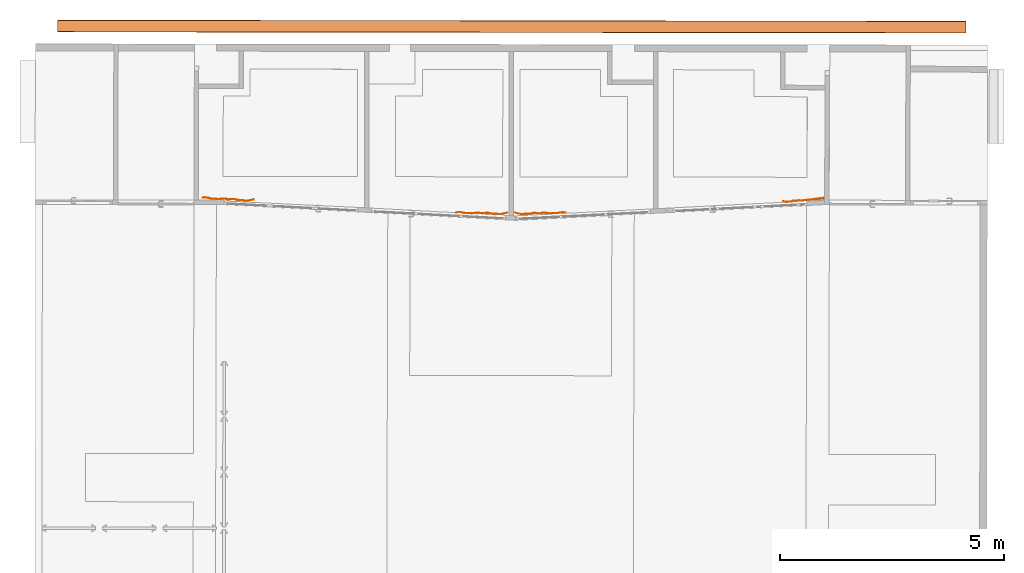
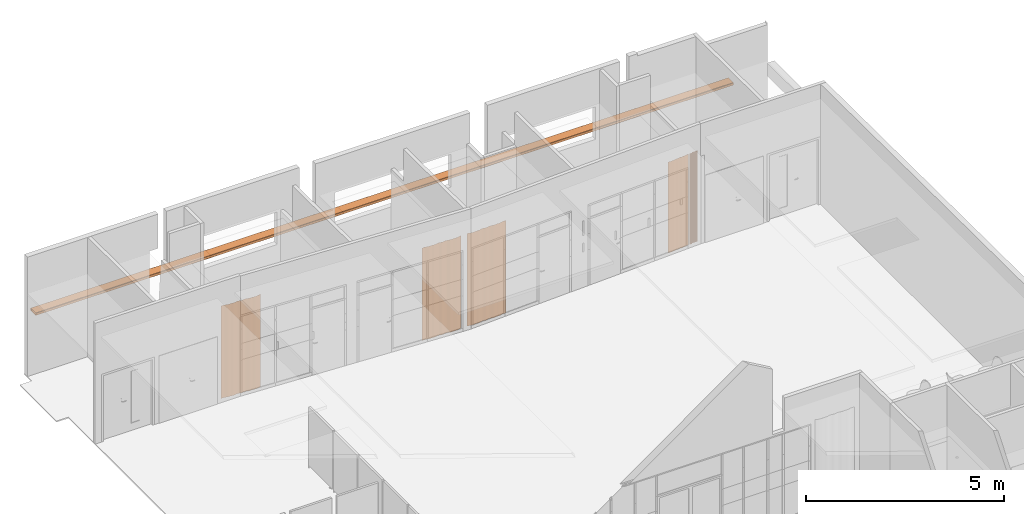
# One storey, part 43 of 43: 5 proxies.
"""IFC2X3 building model written with IfcOpenShell, lengths in metres."""

from ifc_helpers import new_model, entity, si_unit, converted_unit, derived_unit, direction, frame, frame_2d, origin, place, context, subcontext, project, spatial, polyline, circle_curve, parameter, trimmed, segment, composite_curve, outline, extrude, source, transform, mapped, material, type_object, type_shapes, element, save


model = new_model("IFC2X3")

# Units and contexts
model_context = context("Model", 3, precision=1e-05, world=origin(), true_north=direction((6.123233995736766e-17, 1.0)))
body_context = subcontext(model_context, "Body", "Model", "MODEL_VIEW")
ifc_project = project(units=[si_unit("LENGTHUNIT", "METRE"), si_unit("AREAUNIT", "SQUARE_METRE"), converted_unit("PLANEANGLEUNIT", "DEGREE", entity("IfcPlaneAngleMeasure", 0.017453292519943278), si_unit("PLANEANGLEUNIT", "RADIAN"), dimensions=[0, 0, 0, 0, 0, 0, 0]), derived_unit("THERMALTRANSMITTANCEUNIT", [(si_unit("MASSUNIT", "GRAM", prefix="KILO"), 1), (si_unit("THERMODYNAMICTEMPERATUREUNIT", "KELVIN"), -1), (si_unit("TIMEUNIT", "SECOND"), -3)])], contexts=[model_context])

# Site, building, storey
site_placement = place(None, frame((1253.6752467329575, 2072.143113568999, 91.49999999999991), z_axis=(0.0, 0.0, 1.0), x_axis=(0.7237211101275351, 0.6900925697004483, 0.0)))
site = spatial("IfcSite", under=ifc_project, at=site_placement, Name="Surface", CompositionType="ELEMENT")
building_placement = place(site_placement, origin())
building = spatial("IfcBuilding", under=site, at=building_placement, CompositionType="ELEMENT")
storey_placement = place(building_placement, frame((0.0, 0.0, -4.629999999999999)))
storey = spatial("IfcBuildingStorey", under=building, at=storey_placement, Name="rez de rue -1.10m", CompositionType="ELEMENT", Elevation=-4.629999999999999)

# Proxies
ifc_material_1 = material(Name="OMD-rideaux")
building_element_proxy_type_1 = type_object("IfcBuildingElementProxyType", Name="A6305 - Drapes:A6305 - Drapes, Pair 36\"x 3\"", PredefinedType="NOTDEFINED", material=ifc_material_1)
shared_shape_1 = source(origin(), body_context, "Body", "SweptSolid", [
    extrude(outline(polyline([(-0.540311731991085, -0.1077539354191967), (-0.4951550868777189, -0.10775393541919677), (-0.45775509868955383, -0.10197111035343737), (-0.4267200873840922, -0.09249701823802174), (-0.40065837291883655, -0.08142321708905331), (-0.37817827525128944, -0.07084126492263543), (-0.357923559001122, -0.06275253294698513), (-0.33914756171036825, -0.05760737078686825), (-0.3216170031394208, -0.05454985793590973), (-0.30511463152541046, -0.052683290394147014), (-0.2894231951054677, -0.051110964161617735), (-0.2743254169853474, -0.048936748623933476), (-0.25958908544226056, -0.045605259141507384), (-0.24494186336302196, -0.04147659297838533), (-0.2301047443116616, -0.037063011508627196), (-0.21479872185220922, -0.03287677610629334), (-0.19874478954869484, -0.029430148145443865), (-0.18166507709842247, -0.027233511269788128), (-0.16347717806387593, -0.026474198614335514), (-0.14451436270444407, -0.02665253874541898), (-0.1251631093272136, -0.027180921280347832), (-0.10580989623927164, -0.02747173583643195), (-0.08684120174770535, -0.02693737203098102), (-0.06864350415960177, -0.02499021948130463), (-0.05152103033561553, -0.0211999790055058), (-0.03536042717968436, -0.01593500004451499), (-0.019916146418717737, -0.009816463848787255), (-0.004942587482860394, -0.003465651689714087), (0.009805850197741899, 0.0024961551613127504), (0.024574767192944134, 0.007447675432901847), (0.03960912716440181, 0.01077071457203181), (0.055070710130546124, 0.012250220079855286), (0.07095634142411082, 0.01247057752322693), (0.08724341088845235, 0.012110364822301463), (0.10390930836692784, 0.011848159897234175), (0.12093142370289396, 0.01236254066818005), (0.13828714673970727, 0.01433208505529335), (0.15594663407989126, 0.018392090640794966), (0.17375475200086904, 0.024428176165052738), (0.1914503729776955, 0.03169174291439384), (0.20876902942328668, 0.039414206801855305), (0.22544625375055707, 0.046826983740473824), (0.24121757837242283, 0.05316148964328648), (0.2558661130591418, 0.05772196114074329), (0.2697127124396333, 0.06063569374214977), (0.28341801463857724, 0.06255004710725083), (0.29764800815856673, 0.06412057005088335), (0.3130686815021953, 0.06600281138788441), (0.3303460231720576, 0.06885231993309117), (0.3501495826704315, 0.07331152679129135), (0.3733567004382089, 0.07925742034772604), (0.40116346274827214, 0.0853928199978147), (0.4347929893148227, 0.09032096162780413), (0.4754683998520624, 0.09264508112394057), (0.5244128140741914, 0.090968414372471), (0.5828493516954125, 0.08389419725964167), (0.5826371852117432, 0.08500080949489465), (0.5240718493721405, 0.09207915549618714), (0.47498167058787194, 0.09375140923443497), (0.4341554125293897, 0.09141037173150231), (0.40039038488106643, 0.08645618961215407), (0.3724943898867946, 0.08029783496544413), (0.34928946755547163, 0.07434512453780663), (0.329597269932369, 0.06990234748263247), (0.3124183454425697, 0.06707066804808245), (0.29705471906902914, 0.06519398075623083), (0.2828157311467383, 0.06361819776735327), (0.26902736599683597, 0.061690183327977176), (0.2550363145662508, 0.058742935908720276), (0.24022599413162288, 0.0541300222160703), (0.22436131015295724, 0.047753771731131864), (0.20766392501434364, 0.04032926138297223), (0.19037690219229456, 0.03261690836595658), (0.17276251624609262, 0.025378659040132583), (0.15511381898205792, 0.019407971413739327), (0.137656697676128, 0.015371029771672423), (0.12049046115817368, 0.013425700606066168), (0.10359413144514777, 0.012916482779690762), (0.08698066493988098, 0.013170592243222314), (0.07067445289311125, 0.013531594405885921), (0.05468900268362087, 0.013307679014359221), (0.03903749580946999, 0.011785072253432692), (0.02379220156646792, 0.008441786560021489), (0.008884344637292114, 0.003428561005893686), (-0.005922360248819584, -0.0025588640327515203), (-0.02088294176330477, -0.008904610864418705), (-0.0362464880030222, -0.01500070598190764), (-0.05226221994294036, -0.020214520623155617), (-0.06918078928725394, -0.023957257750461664), (-0.08718869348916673, -0.025904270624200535), (-0.10604467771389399, -0.02642834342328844), (-0.1253404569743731, -0.02614482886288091), (-0.14468982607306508, -0.02562008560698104), (-0.16370616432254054, -0.02544421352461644), (-0.18201695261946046, -0.02621331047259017), (-0.19925781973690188, -0.028433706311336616), (-0.2154304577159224, -0.03190870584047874), (-0.23079899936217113, -0.03611496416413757), (-0.24563715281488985, -0.04053168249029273), (-0.2602196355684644, -0.04464498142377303), (-0.274819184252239, -0.047944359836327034), (-0.2897868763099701, -0.05010714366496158), (-0.3054472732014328, -0.05168031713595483), (-0.32201099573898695, -0.05355618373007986), (-0.339675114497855, -0.05663775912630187), (-0.3586396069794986, -0.06185455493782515), (-0.3790529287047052, -0.06998759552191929), (-0.4015399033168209, -0.0805881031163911), (-0.42746218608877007, -0.09160877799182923), (-0.45826126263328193, -0.10101760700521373), (-0.49537444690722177, -0.10676284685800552), (-0.5402404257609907, -0.10677038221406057), (-0.540311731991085, -0.1077539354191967)])), frame((-0.7277431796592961, -0.38589664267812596, 4.629999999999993), z_axis=(0.0, 0.0, 1.0), x_axis=(-0.9821122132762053, 0.18829657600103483, 0.0)), (0.0, 0.0, 1.0), 2.852139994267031),
])
type_shapes(building_element_proxy_type_1, [shared_shape_1])
proxy_1_placement = place(storey_placement, frame((182.2814672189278, 7.003071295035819, -4.629999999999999), z_axis=(0.0, 0.0, 1.0), x_axis=(0.7372384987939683, -0.6756325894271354, 0.0)))
element("IfcBuildingElementProxy", 1, at=proxy_1_placement, inside=storey, type_object=building_element_proxy_type_1, material=ifc_material_1, Name="A6305 - Drapes:A6305 - Drapes, Pair 36\"x 3\"", ObjectType="A6305 - Drapes:A6305 - Drapes, Pair 36\"x 3\"", context=body_context, shape_type="MappedRepresentation", body=[
    mapped(shared_shape_1, transform((0.0, 0.0, 0.0), scale=1.0)),
])
building_element_proxy_type_2 = type_object("IfcBuildingElementProxyType", Name="A6305 - Drapes, Pair 36 x 3:A6305 - Drapes, Pair 36\"x 3\"", PredefinedType="NOTDEFINED", material=ifc_material_1)
shared_shape_2 = source(origin(), body_context, "Body", "SweptSolid", [
    extrude(outline(polyline([(0.09126500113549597, -0.1021428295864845), (0.09225718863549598, -0.1021428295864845), (0.09044647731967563, -0.08768988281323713), (0.0859654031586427, -0.07849301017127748), (0.08031584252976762, -0.0728381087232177), (0.07512654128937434, -0.06891259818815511), (0.07164471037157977, -0.06501994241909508), (0.06958110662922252, -0.06061131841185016), (0.06833704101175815, -0.05598193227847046), (0.06731671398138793, -0.05149315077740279), (0.06584560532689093, -0.04749114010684), (0.06313420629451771, -0.04441336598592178), (0.05888987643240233, -0.04287611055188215), (0.05365214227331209, -0.0425398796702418), (0.047840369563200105, -0.04285127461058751), (0.04192065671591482, -0.04335518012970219), (0.03640502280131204, -0.043617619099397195), (0.03185489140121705, -0.04323275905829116), (0.028842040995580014, -0.04192677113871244), (0.027103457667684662, -0.03960996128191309), (0.026161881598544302, -0.03631277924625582), (0.02573084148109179, -0.032332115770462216), (0.025434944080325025, -0.02803539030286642), (0.024840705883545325, -0.023754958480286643), (0.023464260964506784, -0.019801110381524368), (0.020828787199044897, -0.016574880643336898), (0.017157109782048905, -0.014277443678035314), (0.012936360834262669, -0.012547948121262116), (0.008587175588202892, -0.01104074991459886), (0.004543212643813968, -0.009457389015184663), (0.0012611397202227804, -0.00755871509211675), (-0.0008734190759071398, -0.00513544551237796), (-0.0018609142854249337, -0.0019379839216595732), (-0.0020070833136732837, 0.0019684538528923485), (-0.0016410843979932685, 0.006178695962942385), (-0.0011680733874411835, 0.010332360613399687), (-0.0010191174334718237, 0.014117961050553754), (-0.0017242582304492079, 0.017313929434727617), (-0.004041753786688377, 0.01942866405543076), (-0.007579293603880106, 0.019807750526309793), (-0.01183157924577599, 0.01915850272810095), (-0.016499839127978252, 0.017999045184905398), (-0.02117079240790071, 0.01676432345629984), (-0.025372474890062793, 0.0158813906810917), (-0.028543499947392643, 0.015747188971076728), (-0.030062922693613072, 0.016439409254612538), (-0.030626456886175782, 0.018224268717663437), (-0.030491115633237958, 0.0211984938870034), (-0.029939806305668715, 0.024738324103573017), (-0.029457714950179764, 0.02834331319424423), (-0.029592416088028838, 0.03164206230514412), (-0.03117839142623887, 0.034263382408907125), (-0.03429712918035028, 0.035222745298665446), (-0.03801501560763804, 0.03511728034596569), (-0.0418497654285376, 0.03470831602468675), (-0.045127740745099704, 0.03456961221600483), (-0.04693870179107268, 0.035047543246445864), (-0.04727265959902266, 0.03627887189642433), (-0.046581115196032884, 0.039313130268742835), (-0.045270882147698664, 0.043170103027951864), (-0.04421589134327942, 0.047140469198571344), (-0.04442825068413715, 0.05078931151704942), (-0.04700914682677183, 0.0532174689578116), (-0.050804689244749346, 0.05437039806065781), (-0.05496248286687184, 0.05553673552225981), (-0.05863589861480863, 0.05756846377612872), (-0.06112752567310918, 0.06128135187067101), (-0.06276912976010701, 0.06715552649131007), (-0.06592553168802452, 0.07289465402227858), (-0.073428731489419, 0.07508367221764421), (-0.08707167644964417, 0.07080244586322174), (-0.08640677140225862, 0.07013754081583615), (-0.07324660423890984, 0.07429940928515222), (-0.06647776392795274, 0.07248809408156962), (-0.06355487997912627, 0.06732935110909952), (-0.061932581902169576, 0.06144893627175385), (-0.05930134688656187, 0.05723222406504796), (-0.05544243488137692, 0.05493361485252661), (-0.05122997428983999, 0.05369363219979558), (-0.04754762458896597, 0.05264308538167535), (-0.045278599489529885, 0.05091316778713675), (-0.04490925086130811, 0.04797704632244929), (-0.045799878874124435, 0.044278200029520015), (-0.047112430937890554, 0.04043102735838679), (-0.048008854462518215, 0.03704992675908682), (-0.047652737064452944, 0.03474801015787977), (-0.0456145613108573, 0.033819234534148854), (-0.0424035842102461, 0.033821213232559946), (-0.0386610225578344, 0.03420805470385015), (-0.03502809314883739, 0.03443386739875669), (-0.03214601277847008, 0.03395275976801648), (-0.030579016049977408, 0.03228622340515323), (-0.030207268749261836, 0.029554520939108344), (-0.030552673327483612, 0.026191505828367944), (-0.031133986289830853, 0.022633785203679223), (-0.031469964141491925, 0.01931796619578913), (-0.031079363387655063, 0.016680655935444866), (-0.029484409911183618, 0.01515526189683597), (-0.026516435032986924, 0.014890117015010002), (-0.02255522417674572, 0.015527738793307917), (-0.018036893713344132, 0.016658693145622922), (-0.013397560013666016, 0.017873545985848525), (-0.009073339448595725, 0.01876286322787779), (-0.005500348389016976, 0.018917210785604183), (-0.003109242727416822, 0.01793193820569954), (-0.002015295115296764, 0.015678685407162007), (-0.0018518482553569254, 0.012451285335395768), (-0.0022115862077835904, 0.008579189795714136), (-0.002687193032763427, 0.004391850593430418), (-0.002871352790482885, 0.00021871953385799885), (-0.0023567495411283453, -0.0036107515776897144), (-0.0007386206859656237, -0.0067690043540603), (0.0021201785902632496, -0.009126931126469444), (0.005857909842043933, -0.010925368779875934), (0.010058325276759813, -0.012445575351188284), (0.01430517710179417, -0.01396880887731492), (0.018182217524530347, -0.015776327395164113), (0.021273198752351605, -0.01814938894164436), (0.023229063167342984, -0.021320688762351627), (0.024218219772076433, -0.025148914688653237), (0.024649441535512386, -0.029319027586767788), (0.024932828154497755, -0.03351502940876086), (0.025478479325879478, -0.03742092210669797), (0.02669649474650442, -0.0407207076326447), (0.028996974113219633, -0.04309838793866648), (0.032716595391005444, -0.04429782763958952), (0.03762988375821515, -0.04452122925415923), (0.043251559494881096, -0.04418262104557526), (0.04909493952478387, -0.04369717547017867), (0.05467334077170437, -0.04348006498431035), (0.0595000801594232, -0.04394646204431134), (0.06308998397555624, -0.04551044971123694), (0.0652684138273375, -0.048361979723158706), (0.06654899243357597, -0.05219424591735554), (0.06753776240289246, -0.05663373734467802), (0.06884076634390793, -0.06130694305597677), (0.07106404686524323, -0.06584035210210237), (0.07480484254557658, -0.06987023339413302), (0.07997908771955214, -0.07378967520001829), (0.08534778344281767, -0.07927471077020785), (0.0895600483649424, -0.08812565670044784), (0.09126500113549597, -0.1021428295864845)])), frame((-0.03543386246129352, -0.3798040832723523, 4.629999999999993), z_axis=(0.0, 0.0, 1.0), x_axis=(-0.7071067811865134, -0.7071067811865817, 0.0)), (0.0, 0.0, 1.0), 2.800965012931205),
    extrude(outline(polyline([(-0.29633333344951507, -0.05179798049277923), (-0.2642676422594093, -0.05179798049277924), (-0.23923073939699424, -0.046646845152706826), (-0.2194565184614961, -0.03914427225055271), (-0.20317887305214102, -0.032089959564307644), (-0.1888384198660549, -0.027717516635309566), (-0.17583955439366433, -0.02562135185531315), (-0.16386732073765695, -0.02462734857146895), (-0.15260679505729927, -0.023561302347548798), (-0.14173865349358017, -0.021475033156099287), (-0.1309198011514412, -0.018641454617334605), (-0.11979915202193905, -0.015743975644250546), (-0.10802561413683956, -0.01346631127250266), (-0.09526450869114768, -0.012463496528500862), (-0.08157857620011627, -0.012696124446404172), (-0.06743936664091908, -0.013410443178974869), (-0.053337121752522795, -0.013820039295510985), (-0.039762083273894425, -0.01313849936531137), (-0.027137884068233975, -0.010714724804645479), (-0.015388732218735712, -0.006912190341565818), (-0.004212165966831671, -0.002554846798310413), (0.006695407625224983, 0.0015310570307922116), (0.01763758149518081, 0.004519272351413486), (0.028889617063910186, 0.00574000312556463), (0.04052850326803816, 0.0056183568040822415), (0.05254653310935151, 0.005047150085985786), (0.06493568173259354, 0.004920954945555), (0.07768792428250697, 0.006134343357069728), (0.09075935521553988, 0.009395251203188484), (0.10387148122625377, 0.014191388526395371), (0.11665154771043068, 0.019520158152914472), (0.12872654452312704, 0.02437763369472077), (0.13974254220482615, 0.02778759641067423), (0.1499128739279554, 0.02959756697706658), (0.16010022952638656, 0.030598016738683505), (0.1712028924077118, 0.03163110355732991), (0.18411914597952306, 0.03353898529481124), (0.19978954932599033, 0.03699161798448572), (0.21955620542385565, 0.041023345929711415), (0.2449831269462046, 0.04376460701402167), (0.2776366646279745, 0.04333631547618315), (0.3190831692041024, 0.03785938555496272), (0.31890964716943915, 0.03890089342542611), (0.27737444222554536, 0.04438121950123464), (0.24461723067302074, 0.04480438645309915), (0.2190933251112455, 0.04204780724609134), (0.1992762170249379, 0.03800225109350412), (0.1836579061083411, 0.03455753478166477), (0.1708198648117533, 0.032658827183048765), (0.15975150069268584, 0.03162697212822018), (0.14952837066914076, 0.030620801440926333), (0.13925795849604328, 0.028790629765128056), (0.12813493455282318, 0.025346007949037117), (0.11602638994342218, 0.02047269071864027), (0.1032693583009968, 0.015150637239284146), (0.09023391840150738, 0.01037937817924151), (0.07730663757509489, 0.007150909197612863), (0.06469547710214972, 0.005949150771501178), (0.052384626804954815, 0.006072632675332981), (0.040374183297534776, 0.006641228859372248), (0.02866542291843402, 0.006760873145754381), (0.017264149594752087, 0.0055208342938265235), (0.006201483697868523, 0.0024984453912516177), (-0.004747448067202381, -0.0016049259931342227), (-0.015895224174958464, -0.0059536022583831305), (-0.027549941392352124, -0.009728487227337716), (-0.04002187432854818, -0.012125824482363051), (-0.05347806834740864, -0.012803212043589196), (-0.06752395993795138, -0.012397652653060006), (-0.08166106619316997, -0.011686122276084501), (-0.09540247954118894, -0.011455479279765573), (-0.10827603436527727, -0.012469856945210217), (-0.12013174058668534, -0.014765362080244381), (-0.13127807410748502, -0.017671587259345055), (-0.14205941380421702, -0.020497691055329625), (-0.15282431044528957, -0.02256674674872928), (-0.16401651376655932, -0.023627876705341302), (-0.17601761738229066, -0.02462680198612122), (-0.18911791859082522, -0.02674228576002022), (-0.20359404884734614, -0.031159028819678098), (-0.21989799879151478, -0.038227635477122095), (-0.239554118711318, -0.04569028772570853), (-0.26439138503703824, -0.05080562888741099), (-0.2962375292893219, -0.05081042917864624), (-0.29633333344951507, -0.05179798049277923)])), frame((-0.5172333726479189, -0.383393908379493, 4.629999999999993), z_axis=(0.0, 0.0, 1.0), x_axis=(-0.9864035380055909, 0.16434129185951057, 0.0)), (0.0, 0.0, 1.0), 2.800965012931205),
])
type_shapes(building_element_proxy_type_2, [shared_shape_2])
proxy_2_placement = place(storey_placement, frame((186.46616456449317, 3.4346181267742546, -4.629999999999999), z_axis=(0.0, 0.0, 1.0), x_axis=(0.7801950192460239, -0.6255363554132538, 0.0)))
element("IfcBuildingElementProxy", 2, at=proxy_2_placement, inside=storey, type_object=building_element_proxy_type_2, material=ifc_material_1, Name="A6305 - Drapes, Pair 36 x 3:A6305 - Drapes, Pair 36\"x 3\"", ObjectType="A6305 - Drapes, Pair 36 x 3:A6305 - Drapes, Pair 36\"x 3\"", context=body_context, shape_type="MappedRepresentation", body=[
    mapped(shared_shape_2, transform((0.0, 0.0, 0.0), scale=1.0)),
])
building_element_proxy_type_3 = type_object("IfcBuildingElementProxyType", Name="A6305 - Drapes:A6305 - Drapes, Pair 36\"x 3\"", PredefinedType="NOTDEFINED", material=ifc_material_1)
shared_shape_3 = source(origin(), body_context, "Body", "SweptSolid", [
    extrude(outline(polyline([(-0.14654117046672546, -0.5311057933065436), (-0.14555503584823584, -0.5311057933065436), (-0.14230331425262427, -0.48635780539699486), (-0.13388950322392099, -0.4497572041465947), (-0.12227825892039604, -0.4197190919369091), (-0.10941202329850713, -0.3946615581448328), (-0.09721325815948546, -0.37299995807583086), (-0.08762544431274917, -0.353228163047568), (-0.08105100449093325, -0.3346905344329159), (-0.07670022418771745, -0.3172954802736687), (-0.07363156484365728, -0.3009107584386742), (-0.07093012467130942, -0.28540511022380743), (-0.06769070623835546, -0.27063298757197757), (-0.06334428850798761, -0.25631023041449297), (-0.058187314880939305, -0.2420633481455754), (-0.052709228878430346, -0.2275834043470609), (-0.04740270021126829, -0.21255924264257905), (-0.042767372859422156, -0.19668021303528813), (-0.03930612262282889, -0.1796450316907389), (-0.03721500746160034, -0.1614377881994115), (-0.03601537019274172, -0.14245851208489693), (-0.035139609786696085, -0.12312185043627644), (-0.03402712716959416, -0.10385608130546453), (-0.03214097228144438, -0.08508735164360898), (-0.028896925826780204, -0.06726737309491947), (-0.02394062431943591, -0.05066372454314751), (-0.017582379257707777, -0.03506692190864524), (-0.010391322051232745, -0.020184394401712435), (-0.002980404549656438, -0.005721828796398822), (0.004062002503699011, 0.00861317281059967), (0.010140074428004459, 0.023119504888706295), (0.014576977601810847, 0.03808314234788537), (0.017227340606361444, 0.053583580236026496), (0.018606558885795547, 0.06951099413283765), (0.019425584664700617, 0.0858006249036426), (0.02037344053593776, 0.102388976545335), (0.02210307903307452, 0.11920425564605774), (0.02528458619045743, 0.13618489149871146), (0.03057326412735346, 0.15330440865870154), (0.03780447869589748, 0.1704751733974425), (0.04629745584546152, 0.18752006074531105), (0.055239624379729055, 0.20420416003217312), (0.06385206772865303, 0.22032097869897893), (0.07135878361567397, 0.23568307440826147), (0.07703053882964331, 0.25012107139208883), (0.08098174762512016, 0.26386238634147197), (0.08390173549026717, 0.27747524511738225), (0.08650299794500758, 0.29156301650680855), (0.08948569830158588, 0.30675072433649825), (0.09355215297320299, 0.32367992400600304), (0.09940721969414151, 0.342999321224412), (0.10702226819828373, 0.36571306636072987), (0.11518162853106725, 0.3930907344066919), (0.1225643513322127, 0.42640914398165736), (0.12785135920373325, 0.4669592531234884), (0.12973313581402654, 0.5160418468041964), (0.1269081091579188, 0.5749657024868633), (0.12581973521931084, 0.5752573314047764), (0.12864995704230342, 0.5164622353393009), (0.12678312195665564, 0.46752470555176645), (0.12152389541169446, 0.42712382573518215), (0.11417694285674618, 0.3939386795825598), (0.10604692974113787, 0.36664835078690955), (0.09843852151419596, 0.34393192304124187), (0.09255901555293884, 0.3245026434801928), (0.08846766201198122, 0.3074765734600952), (0.0854752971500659, 0.2922323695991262), (0.0828799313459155, 0.2781531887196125), (0.07997957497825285, 0.2646221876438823), (0.07607223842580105, 0.2510225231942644), (0.07046448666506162, 0.2367420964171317), (0.06300615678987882, 0.22147009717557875), (0.05440687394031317, 0.20537253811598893), (0.04545233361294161, 0.1886576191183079), (0.03692823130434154, 0.17153354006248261), (0.029620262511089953, 0.1542085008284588), (0.024293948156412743, 0.13688881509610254), (0.021074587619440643, 0.11972093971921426), (0.019330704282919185, 0.10278057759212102), (0.018387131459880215, 0.08613934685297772), (0.017568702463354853, 0.06986886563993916), (0.01620025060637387, 0.05404075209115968), (0.013606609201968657, 0.038726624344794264), (0.00920515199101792, 0.023971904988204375), (0.0031986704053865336, 0.009599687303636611), (-0.003813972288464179, -0.004679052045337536), (-0.01123088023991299, -0.019154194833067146), (-0.01845015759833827, -0.03411562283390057), (-0.02486990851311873, -0.0498532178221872), (-0.02988833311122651, -0.0666568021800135), (-0.033146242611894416, -0.08466606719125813), (-0.035050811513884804, -0.10354646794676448), (-0.03616016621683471, -0.12287004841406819), (-0.03703243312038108, -0.14220885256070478), (-0.038225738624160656, -0.16113492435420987), (-0.04029820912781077, -0.17922030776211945), (-0.043724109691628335, -0.19609647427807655), (-0.04832255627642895, -0.21185916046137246), (-0.05360459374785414, -0.226822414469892), (-0.05907947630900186, -0.24130155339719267), (-0.06425645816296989, -0.2556118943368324), (-0.06864479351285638, -0.2700687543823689), (-0.07190502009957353, -0.2849697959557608), (-0.07460785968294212, -0.30050646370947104), (-0.07766280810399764, -0.31683066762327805), (-0.08197993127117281, -0.3340942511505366), (-0.08846929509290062, -0.35244905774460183), (-0.09800144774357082, -0.3720658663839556), (-0.11018120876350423, -0.393721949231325), (-0.12311051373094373, -0.4189147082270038), (-0.134803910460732, -0.44918341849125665), (-0.14327594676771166, -0.4860673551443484), (-0.14654117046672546, -0.5311057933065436)])), frame((-0.7277431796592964, 0.38589664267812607, 4.629999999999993), z_axis=(0.0, 0.0, 1.0), x_axis=(-0.25881904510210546, 0.9659258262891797, 0.0)), (0.0, 0.0, 1.0), 2.852139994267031),
])
type_shapes(building_element_proxy_type_3, [shared_shape_3])
for number, where, z_axis, x_axis in (
    (3, (176.40580327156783, 13.0750750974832, -4.629999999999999), (0.0, 0.0, 1.0), (-0.6855443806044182, 0.7280308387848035, 0.0)),
    (4, (180.26923771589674, 8.927449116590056, -4.629999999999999), (0.0, 0.0, 1.0), (-0.7078488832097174, 0.7063638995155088, 0.0)),
):
    element("IfcBuildingElementProxy", number, at=place(storey_placement, frame(where, z_axis=z_axis, x_axis=x_axis)), inside=storey, type_object=building_element_proxy_type_3, material=ifc_material_1, Name="A6305 - Drapes:A6305 - Drapes, Pair 36\"x 3\"", ObjectType="A6305 - Drapes:A6305 - Drapes, Pair 36\"x 3\"", context=body_context, shape_type="MappedRepresentation", body=[
        mapped(shared_shape_3, transform((0.0, 0.0, 0.0), scale=1.0)),
    ])
ifc_material_2 = material(Name="OMD_couleur facade-blanc perlé")
building_element_proxy_type_4 = type_object("IfcBuildingElementProxyType", Name="Profil en relief:tube facade profil 1%", PredefinedType="NOTDEFINED")
proxy_3_placement = place(storey_placement, frame((176.45397034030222, 3.5715918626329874, 1.448459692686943)))
element("IfcBuildingElementProxy", 5, at=proxy_3_placement, inside=storey, type_object=building_element_proxy_type_4, material=ifc_material_2, Name="Profil en relief:tube facade profil 1%", ObjectType="Profil en relief:tube facade profil 1%", context=body_context, shape_type="SweptSolid", body=[
    extrude(outline(composite_curve([segment(polyline([(-0.028749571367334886, -0.135000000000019), (0.026248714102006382, -0.135000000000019)]), True, "CONTINUOUS"), segment(trimmed(circle_curve(frame_2d((0.026091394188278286, -0.1246510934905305), x_axis=(0.0, 1.0)), 0.010350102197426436), [parameter(180.87092030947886)], [parameter(268.0681680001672)], True, "PARAMETER"), True, "CONTINUOUS"), segment(polyline([(0.03643561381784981, -0.12499999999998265), (0.04106524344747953, 0.12500000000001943)]), True, "CONTINUOUS"), segment(trimmed(circle_curve(frame_2d((0.03106524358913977, 0.12500168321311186), x_axis=(0.0, 1.0)), 0.01), [parameter(269.9903558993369)], [parameter(358.94873241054)], True, "PARAMETER"), True, "CONTINUOUS"), segment(polyline([(0.031248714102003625, 0.1350000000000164), (-0.02874957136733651, 0.1350000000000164)]), True, "CONTINUOUS"), segment(trimmed(circle_curve(frame_2d((-0.02874957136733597, 0.12499999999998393), x_axis=(0.0, 1.0)), 0.00999999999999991), [parameter(0.0)], [parameter(90.00000000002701)], True, "PARAMETER"), True, "CONTINUOUS"), segment(polyline([(-0.0387495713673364, 0.12499999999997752), (-0.03874957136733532, -0.12500000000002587)]), True, "CONTINUOUS"), segment(trimmed(circle_curve(frame_2d((-0.028749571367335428, -0.1249999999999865), x_axis=(0.0, 1.0)), 0.009999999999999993), [parameter(89.99999999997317)], [parameter(179.99999999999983)], True, "PARAMETER"), True, "CONTINUOUS")], self_intersect=False), holes=[composite_curve([segment(trimmed(circle_curve(frame_2d((0.026434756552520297, -0.12499999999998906), x_axis=(0.0, 1.0)), 0.004999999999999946), [parameter(180.00000000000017)], [parameter(267.8781766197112)], True, "PARAMETER"), False, "CONTINUOUS"), segment(polyline([(0.026434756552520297, -0.1300000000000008), (-0.028749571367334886, -0.1300000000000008)]), True, "CONTINUOUS"), segment(trimmed(circle_curve(frame_2d((-0.028749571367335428, -0.1249999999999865), x_axis=(0.0, 1.0)), 0.004999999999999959), [parameter(89.9999999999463)], [parameter(180.00000000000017)], True, "PARAMETER"), False, "CONTINUOUS"), segment(polyline([(-0.03374957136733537, -0.12500000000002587), (-0.03374957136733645, 0.12499999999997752)]), True, "CONTINUOUS"), segment(trimmed(circle_curve(frame_2d((-0.02874957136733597, 0.12499999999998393), x_axis=(0.0, 1.0)), 0.004999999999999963), [parameter(0.0)], [parameter(90.00000000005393)], True, "PARAMETER"), False, "CONTINUOUS"), segment(polyline([(-0.02874957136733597, 0.12999999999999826), (0.031156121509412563, 0.12999999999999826)]), True, "CONTINUOUS"), segment(trimmed(circle_curve(frame_2d((0.031156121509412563, 0.1250900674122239), x_axis=(0.0, 1.0)), 0.004909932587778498), [parameter(269.9999999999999)], [parameter(0.0)], True, "PARAMETER"), False, "CONTINUOUS"), segment(polyline([(0.03606605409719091, 0.12509006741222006), (0.031431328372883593, -0.12518512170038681)]), True, "CONTINUOUS")], self_intersect=False)]), frame((0.0948780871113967, 14.13134650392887, 0.04034484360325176), z_axis=(0.7228702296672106, -0.6909838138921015, 0.0), x_axis=(0.0, 0.0, 1.0)), (0.0, 0.0, 1.0), 20.307514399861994),
])

save(model, "model.ifc")
